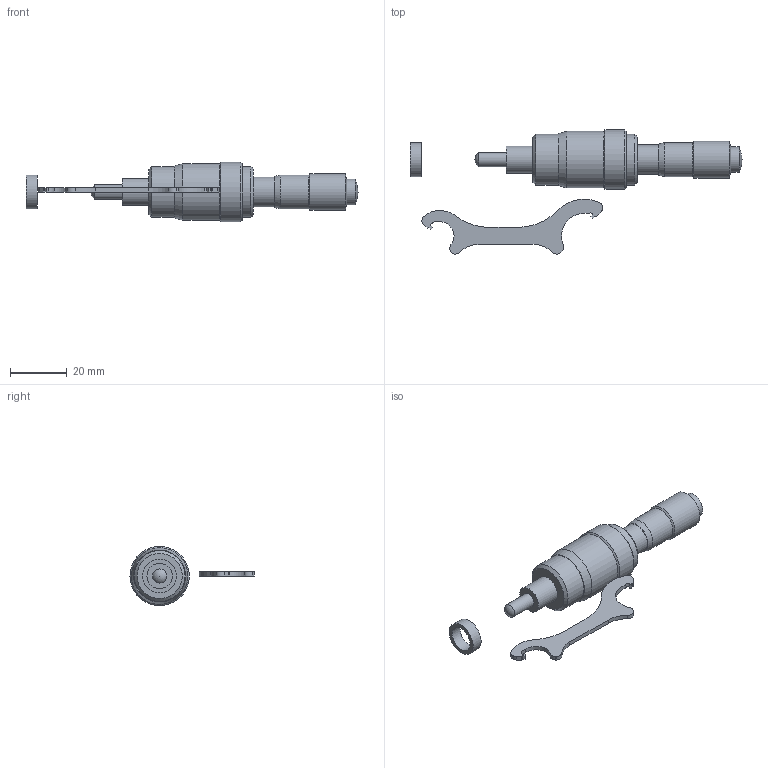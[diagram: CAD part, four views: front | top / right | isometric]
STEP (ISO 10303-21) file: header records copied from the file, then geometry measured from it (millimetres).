
FILE_DESCRIPTION( ( 'STEP AP203' ), '1' );
FILE_NAME( 'C:/3D-Trans/3D_B83-1+090212.step', '2009-02-12T02:54:07', ( ' ' ), ( ' ' ), 'XStep 1.0', ' ', ' ' );
FILE_SCHEMA( ( 'CONFIG_CONTROL_DESIGN' ) );
Length unit declared in the file: millimetre
Products named in the file (5): 1; 2; 3; 4; 5
Bounding box: 117.5 x 43.91 x 21 mm (x, y, z)
Volume: 15693.8 mm3; surface area: 9650.6 mm2
Topology: 5 solids, 5 shells, 69 faces, 162 edges, 106 vertices
Faces by surface type: cylinder 32, plane 27, cone 8, sphere 2
Full cylindrical faces by diameter (mm): 5 x2, 9 x2, 9.5 x1, 10.5 x2, 12 x2, 13 x1, 18 x2, 20 x1, 21 x1
Entity records: 2032 total; most frequent: DIRECTION 346, CARTESIAN_POINT 302, ORIENTED_EDGE 258, AXIS2_PLACEMENT_3D 143, EDGE_CURVE 129, EDGE_LOOP 100, VERTEX_POINT 99, FACE_OUTER_BOUND 83
